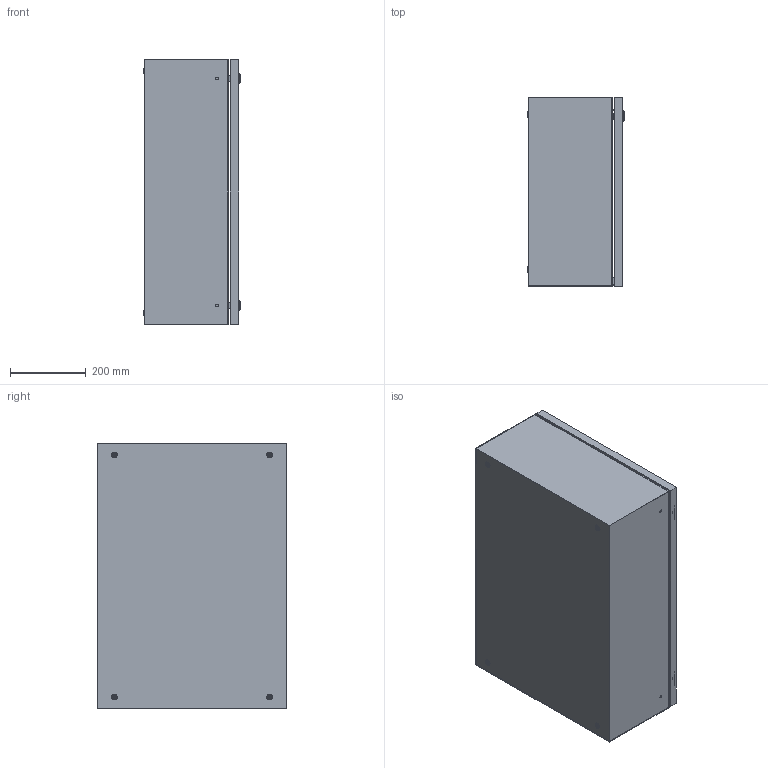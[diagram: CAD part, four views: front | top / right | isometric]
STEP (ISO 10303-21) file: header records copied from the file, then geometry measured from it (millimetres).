
FILE_DESCRIPTION(/* description */ ('Unknown'),/* implementation_level */ '2;1');
FILE_NAME(/* name */ 'CCA05007025',/* time_stamp */ '2024-07-30T15:33:05+02:00',/* author */ ('Unknown'),/* organization */ ('Unknown'),/* preprocessor_version */ 'ST-DEVELOPER v19.4',/* originating_system */ 'Solid Edge',/* authorisation */ 'Unknown');
FILE_SCHEMA (('AUTOMOTIVE_DESIGN {1 0 10303 214 3 1 1}'));
Length unit declared in the file: millimetre
Products named in the file (16): CCA05007025; C000X000.02_oa_0; C000X000.03_oa_1; C0000000.37; C0000000.02; AE00198.02; AE00989.09; AE00417.01; C000X000.01_oa_2; C0000000.19; C0000000.04; C0000000.05; AE00316.01; AE00601.01; AE00891.02; C0000000.01
Assembly tree (35 placements, depth 4):
  CCA05007025
    C000X000.02_oa_0
      C000X000.03_oa_1
        C0000000.37
      C0000000.02  x2
      AE00198.02  x2
      AE00989.09  x2
      AE00417.01  x2
    AE00198.02  x2
    C000X000.01_oa_2
      C0000000.19
      C0000000.04  x4
      C0000000.05  x4
      AE00316.01  x2
      AE00601.01  x2
      AE00891.02  x2
      C0000000.01  x2
      AE00417.01  x4
Bounding box: 255 x 500 x 700 mm (x, y, z)
Volume: 2308261 mm3; surface area: 2704234.5 mm2
Topology: 34 solids, 34 shells, 666 faces, 1620 edges, 1054 vertices
Faces by surface type: plane 434, cylinder 162, cone 36, torus 34
Full cylindrical faces by diameter (mm): 4 x2, 4.917 x6, 4.918 x2, 5.4 x2, 6 x14, 6.4 x2, 7.5 x6, 8 x4, 8.376 x8, 10 x6, 10.25 x4, 10.5 x4, 11 x2, 13.6 x2, 14 x4, 15 x4, 16 x4, 16.3 x2, 19.5 x2, 28 x2
Entity records: 11376 total; most frequent: CARTESIAN_POINT 1749, DIRECTION 1672, ORIENTED_EDGE 1540, EDGE_CURVE 770, AXIS2_PLACEMENT_3D 560, LINE 552, VECTOR 552, VERTEX_POINT 528
